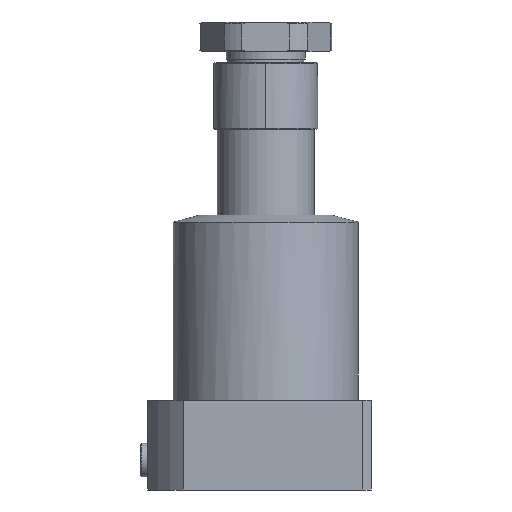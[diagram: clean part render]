
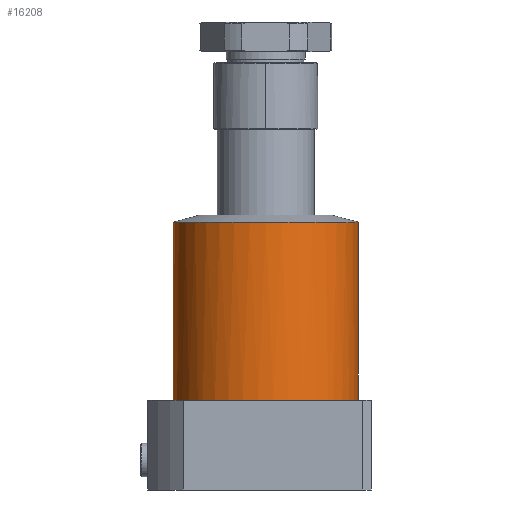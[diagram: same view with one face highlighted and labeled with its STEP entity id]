
A CAD part, front view. The second image highlights one B-rep face of the part: STEP entity #16208.
In plain terms, the highlighted cylindrical face has radius 52.5 mm (diameter 105 mm), a partial arc.
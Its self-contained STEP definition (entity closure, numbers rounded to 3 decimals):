
#32 = EDGE_CURVE ( 'NONE', #2212, #15155, #8803, .T. ) ;
#72 = CARTESIAN_POINT ( 'NONE',  ( 0., 0., 51. ) ) ;
#131 = DIRECTION ( 'NONE',  ( 0., 0., -1. ) ) ;
#581 = ORIENTED_EDGE ( 'NONE', *, *, #5281, .F. ) ;
#918 = DIRECTION ( 'NONE',  ( 0., 0., -1. ) ) ;
#1207 = AXIS2_PLACEMENT_3D ( 'NONE', #9432, #918, #10835 ) ;
#1284 = CARTESIAN_POINT ( 'NONE',  ( -35.581, -38.604, 51. ) ) ;
#1426 = CIRCLE ( 'NONE', #9251, 52.5 ) ;
#1502 = DIRECTION ( 'NONE',  ( -1., 0., 0. ) ) ;
#1797 = EDGE_CURVE ( 'NONE', #2992, #17881, #4256, .T. ) ;
#1806 = ORIENTED_EDGE ( 'NONE', *, *, #8706, .F. ) ;
#1995 = LINE ( 'NONE', #14570, #5797 ) ;
#2212 = VERTEX_POINT ( 'NONE', #9334 ) ;
#2630 = CIRCLE ( 'NONE', #4113, 52.5 ) ;
#2992 = VERTEX_POINT ( 'NONE', #5487 ) ;
#3227 = DIRECTION ( 'NONE',  ( 0., 0., -1. ) ) ;
#3295 = FACE_OUTER_BOUND ( 'NONE', #13734, .T. ) ;
#3622 = VERTEX_POINT ( 'NONE', #5367 ) ;
#3709 = DIRECTION ( 'NONE',  ( -1., 0., 0. ) ) ;
#3890 = EDGE_CURVE ( 'NONE', #17881, #9330, #1995, .T. ) ;
#4113 = AXIS2_PLACEMENT_3D ( 'NONE', #11712, #3227, #13138 ) ;
#4187 = CIRCLE ( 'NONE', #15584, 52.5 ) ;
#4256 = CIRCLE ( 'NONE', #12883, 52.5 ) ;
#4716 = CARTESIAN_POINT ( 'NONE',  ( 35.581, -38.604, 51. ) ) ;
#4796 = DIRECTION ( 'NONE',  ( 0., 0., -1. ) ) ;
#5279 = CARTESIAN_POINT ( 'NONE',  ( 0., 0., 151.981 ) ) ;
#5281 = EDGE_CURVE ( 'NONE', #5555, #9330, #2630, .T. ) ;
#5367 = CARTESIAN_POINT ( 'NONE',  ( 52.5, 0., 51. ) ) ;
#5487 = CARTESIAN_POINT ( 'NONE',  ( 52.5, 0., 151.981 ) ) ;
#5555 = VERTEX_POINT ( 'NONE', #9984 ) ;
#5797 = VECTOR ( 'NONE', #17591, 1000. ) ;
#6017 = ORIENTED_EDGE ( 'NONE', *, *, #3890, .T. ) ;
#6604 = CARTESIAN_POINT ( 'NONE',  ( 0., 0., 51. ) ) ;
#6711 = DIRECTION ( 'NONE',  ( -1., 0., 0. ) ) ;
#6934 = CARTESIAN_POINT ( 'NONE',  ( -52.5, 0., 151.981 ) ) ;
#7228 = ORIENTED_EDGE ( 'NONE', *, *, #8813, .F. ) ;
#7526 = ORIENTED_EDGE ( 'NONE', *, *, #32, .F. ) ;
#8015 = DIRECTION ( 'NONE',  ( -1., 0., 0. ) ) ;
#8104 = CARTESIAN_POINT ( 'NONE',  ( -52.5, 0., 51. ) ) ;
#8640 = DIRECTION ( 'NONE',  ( -1., 0., 0. ) ) ;
#8706 = EDGE_CURVE ( 'NONE', #13016, #5555, #1426, .T. ) ;
#8803 = CIRCLE ( 'NONE', #11079, 52.5 ) ;
#8813 = EDGE_CURVE ( 'NONE', #2992, #3622, #15169, .T. ) ;
#9251 = AXIS2_PLACEMENT_3D ( 'NONE', #72, #9999, #1502 ) ;
#9330 = VERTEX_POINT ( 'NONE', #8104 ) ;
#9334 = CARTESIAN_POINT ( 'NONE',  ( 38.604, -35.581, 51. ) ) ;
#9432 = CARTESIAN_POINT ( 'NONE',  ( 0., 0., 51. ) ) ;
#9553 = AXIS2_PLACEMENT_3D ( 'NONE', #13629, #13748, #3709 ) ;
#9984 = CARTESIAN_POINT ( 'NONE',  ( -38.604, -35.581, 51. ) ) ;
#9999 = DIRECTION ( 'NONE',  ( 0., 0., -1. ) ) ;
#10029 = ORIENTED_EDGE ( 'NONE', *, *, #12863, .F. ) ;
#10835 = DIRECTION ( 'NONE',  ( -1., 0., 0. ) ) ;
#11079 = AXIS2_PLACEMENT_3D ( 'NONE', #14323, #131, #8640 ) ;
#11712 = CARTESIAN_POINT ( 'NONE',  ( 0., 0., 51. ) ) ;
#11839 = VECTOR ( 'NONE', #4796, 1000. ) ;
#12863 = EDGE_CURVE ( 'NONE', #15155, #13016, #17328, .T. ) ;
#12883 = AXIS2_PLACEMENT_3D ( 'NONE', #5279, #15180, #6711 ) ;
#13016 = VERTEX_POINT ( 'NONE', #1284 ) ;
#13138 = DIRECTION ( 'NONE',  ( -1., 0., 0. ) ) ;
#13266 = CARTESIAN_POINT ( 'NONE',  ( 52.5, 0., 156. ) ) ;
#13629 = CARTESIAN_POINT ( 'NONE',  ( 0., 0., 156. ) ) ;
#13734 = EDGE_LOOP ( 'NONE', ( #7228, #16687, #6017, #581, #1806, #10029, #7526, #16869 ) ) ;
#13748 = DIRECTION ( 'NONE',  ( 0., 0., -1. ) ) ;
#14323 = CARTESIAN_POINT ( 'NONE',  ( 0., 0., 51. ) ) ;
#14570 = CARTESIAN_POINT ( 'NONE',  ( -52.5, 0., 156. ) ) ;
#15155 = VERTEX_POINT ( 'NONE', #4716 ) ;
#15169 = LINE ( 'NONE', #13266, #11839 ) ;
#15180 = DIRECTION ( 'NONE',  ( 0., 0., -1. ) ) ;
#15584 = AXIS2_PLACEMENT_3D ( 'NONE', #6604, #16483, #8015 ) ;
#15971 = EDGE_CURVE ( 'NONE', #3622, #2212, #4187, .T. ) ;
#16208 = ADVANCED_FACE ( 'NONE', ( #3295 ), #16581, .T. ) ;
#16483 = DIRECTION ( 'NONE',  ( 0., 0., -1. ) ) ;
#16581 = CYLINDRICAL_SURFACE ( 'NONE', #9553, 52.5 ) ;
#16687 = ORIENTED_EDGE ( 'NONE', *, *, #1797, .T. ) ;
#16869 = ORIENTED_EDGE ( 'NONE', *, *, #15971, .F. ) ;
#17328 = CIRCLE ( 'NONE', #1207, 52.5 ) ;
#17591 = DIRECTION ( 'NONE',  ( 0., 0., -1. ) ) ;
#17881 = VERTEX_POINT ( 'NONE', #6934 ) ;
